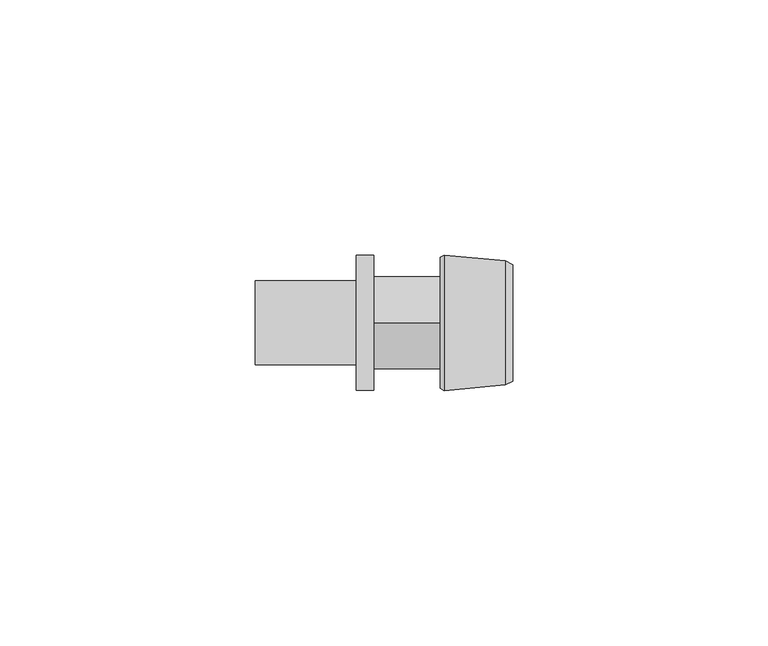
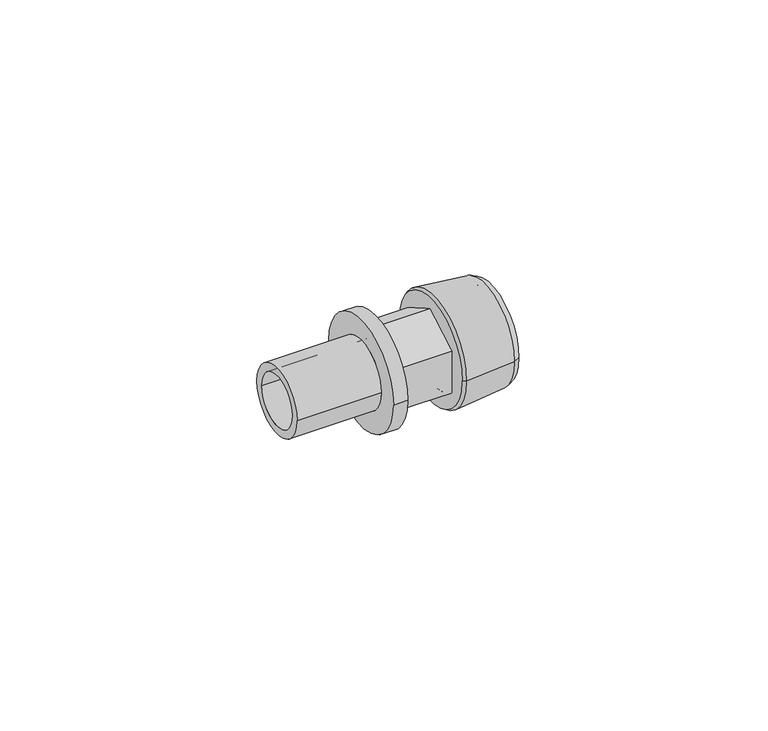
"""IFC4 building model written with IfcOpenShell, lengths in millimetres: pipe fitting geometry, RAUTITAN_Adapter_external_thread LX+G_LX : RTI A external LX+G_LX DE."""

from ifc_helpers import new_model, si_unit, frame, origin, place, context, project, spatial, polyline, circle_curve, outline, extrude, source, transform, mapped, element, save
from ifc_brep_helpers import plane_surface, cylinder_surface, revolved_surface, advanced_brep


def pipe_fitting_34324f26(model_context):
    return source(origin(), model_context, "Body", "SolidModel", [
        advanced_brep(
        [(-3.35, 8.225, 0.0), (-3.35, -8.225, 0.0), (-23.2, -8.225, 0.0), (-23.2, 8.225, 0.0), (0.0, 13.25, 0.0), (0.0, -13.25, 0.0), (-3.35, -13.25, 0.0), (-3.35, 13.25, 0.0), (-23.2, 6.25, 0.0), (-23.2, -6.25, 0.0), (0.0, -6.25, 0.0), (0.0, 6.25, 0.0)],
        [
            (0, 1, circle_curve(frame((-3.35, 0.0, 0.0), z_axis=(-1.0, 0.0, 0.0), x_axis=(0.0, -1.0, 0.0)), 8.225)),
            (1, 2),
            (2, 3, circle_curve(frame((-23.2, 0.0, 0.0), z_axis=(1.0, 0.0, 0.0), x_axis=(0.0, -1.0, 0.0)), 8.225)),
            (3, 0),
            (4, 5, circle_curve(frame((0.0, 0.0, 0.0), z_axis=(-1.0, 0.0, 0.0), x_axis=(0.0, -1.0, 0.0)), 13.25)),
            (5, 6),
            (6, 7, circle_curve(frame((-3.35, 0.0, 0.0), z_axis=(1.0, 0.0, 0.0), x_axis=(0.0, -1.0, 0.0)), 13.25)),
            (7, 4),
            (8, 9, circle_curve(frame((-23.2, 0.0, 0.0), z_axis=(-1.0, 0.0, 0.0), x_axis=(0.0, -1.0, 0.0)), 6.25)),
            (9, 10),
            (10, 11, circle_curve(frame((0.0, 0.0, 0.0), z_axis=(1.0, 0.0, 0.0), x_axis=(0.0, -1.0, 0.0)), 6.25)),
            (11, 8),
            (2, 3, circle_curve(frame((-23.2, 0.0, 0.0), z_axis=(-1.0, 0.0, 0.0), x_axis=(0.0, 1.0, 0.0)), 8.225)),
            (8, 9, circle_curve(frame((-23.2, 0.0, 0.0), z_axis=(1.0, 0.0, 0.0), x_axis=(0.0, 1.0, 0.0)), 6.25)),
            (1, 0, circle_curve(frame((-3.35, 0.0, 0.0), z_axis=(-1.0, 0.0, 0.0), x_axis=(0.0, 1.0, 0.0)), 8.225)),
            (6, 7, circle_curve(frame((-3.35, 0.0, 0.0), z_axis=(-1.0, 0.0, 0.0), x_axis=(0.0, 1.0, 0.0)), 13.25)),
            (5, 4, circle_curve(frame((0.0, 0.0, 0.0), z_axis=(-1.0, 0.0, 0.0), x_axis=(0.0, 1.0, 0.0)), 13.25)),
            (10, 11, circle_curve(frame((0.0, 0.0, 0.0), z_axis=(-1.0, 0.0, 0.0), x_axis=(0.0, 1.0, 0.0)), 6.25)),
        ],
        [
            cylinder_surface(frame((0.0, 0.0, 0.0), z_axis=(1.0, 0.0, 0.0), x_axis=(0.0, -1.0, 0.0)), 8.225),
            cylinder_surface(frame((0.0, 0.0, 0.0), z_axis=(1.0, 0.0, 0.0), x_axis=(0.0, -1.0, 0.0)), 13.25),
            revolved_surface(polyline([(0.0, -6.25, 0.0), (-23.2, -6.25, 0.0)]), (0.0, 0.0, 0.0), (1.0, 0.0, 0.0)),
            plane_surface(frame((-23.2, 0.0, 0.0), z_axis=(-1.0, 0.0, 0.0), x_axis=(0.0, 1.0, 0.0))),
            cylinder_surface(frame((0.0, 0.0, 0.0), z_axis=(1.0, 0.0, 0.0), x_axis=(0.0, 1.0, 0.0)), 8.225),
            plane_surface(frame((-3.35, 0.0, 0.0), z_axis=(-1.0, 0.0, 0.0), x_axis=(0.0, 1.0, 0.0))),
            cylinder_surface(frame((0.0, 0.0, 0.0), z_axis=(1.0, 0.0, 0.0), x_axis=(0.0, 1.0, 0.0)), 13.25),
            plane_surface(frame((0.0, 0.0, 0.0), z_axis=(1.0, 0.0, 0.0), x_axis=(0.0, 1.0, 0.0))),
            revolved_surface(polyline([(0.0, 6.25, 0.0), (-23.2, 6.25, 0.0)]), (0.0, 0.0, 0.0), (1.0, 0.0, 0.0)),
        ],
        [
            (0, [[1, 2, 3, 4]]),
            (1, [[5, 6, 7, 8]]),
            (2, [[9, 10, 11, 12]]),
            (3, [[13, -3], [14, -9]]),
            (4, [[15, -4, -13, -2]]),
            (5, [[16, -7], [-15, -1]]),
            (6, [[17, -8, -16, -6]]),
            (7, [[-17, -5], [18, -11]]),
            (8, [[-14, -12, -18, -10]]),
        ],
    ),
        advanced_brep(
        [(14.2132803, 9.5, 0.0), (14.2132803, -9.5, 0.0), (27.31, -9.5, 0.0), (27.31, 9.5, 0.0), (13.11, 8.3967197, 0.0), (13.11, -8.3967197, 0.0), (13.8506902, 13.27, 0.0), (13.8506902, -13.27, 0.0), (13.11, -12.845, 0.0), (13.11, 12.845, 0.0), (25.8100007, 12.16, 0.0), (25.8100007, -12.16, 0.0), (27.31, 11.425, 0.0), (27.31, -11.425, 0.0)],
        [
            (0, 1, circle_curve(frame((14.2132803, 0.0, 0.0), z_axis=(-1.0, 0.0, 0.0), x_axis=(0.0, -1.0, 0.0)), 9.5)),
            (1, 2),
            (2, 3, circle_curve(frame((27.31, 0.0, 0.0), z_axis=(1.0, 0.0, 0.0), x_axis=(0.0, -1.0, 0.0)), 9.5)),
            (3, 0),
            (4, 5, circle_curve(frame((13.11, 0.0, 0.0), z_axis=(-1.0, 0.0, 0.0), x_axis=(0.0, -1.0, 0.0)), 8.3967197)),
            (5, 1),
            (0, 4),
            (6, 7, circle_curve(frame((13.8506902, 0.0, 0.0), z_axis=(-1.0, 0.0, 0.0), x_axis=(0.0, -1.0, 0.0)), 13.27)),
            (7, 8),
            (8, 9, circle_curve(frame((13.11, 0.0, 0.0), z_axis=(1.0, 0.0, 0.0), x_axis=(0.0, -1.0, 0.0)), 12.845)),
            (9, 6),
            (10, 11, circle_curve(frame((25.8100007, 0.0, 0.0), z_axis=(-1.0, 0.0, 0.0), x_axis=(0.0, -1.0, 0.0)), 12.16)),
            (11, 7),
            (6, 10),
            (12, 13, circle_curve(frame((27.31, 0.0, 0.0), z_axis=(-1.0, 0.0, 0.0), x_axis=(0.0, -1.0, 0.0)), 11.425)),
            (13, 11),
            (10, 12),
            (1, 0, circle_curve(frame((14.2132803, 0.0, 0.0), z_axis=(-1.0, 0.0, 0.0), x_axis=(0.0, 1.0, 0.0)), 9.5)),
            (3, 2, circle_curve(frame((27.31, 0.0, 0.0), z_axis=(1.0, 0.0, 0.0), x_axis=(0.0, 1.0, 0.0)), 9.5)),
            (5, 4, circle_curve(frame((13.11, 0.0, 0.0), z_axis=(-1.0, 0.0, 0.0), x_axis=(0.0, 1.0, 0.0)), 8.3967197)),
            (8, 9, circle_curve(frame((13.11, 0.0, 0.0), z_axis=(-1.0, 0.0, 0.0), x_axis=(0.0, 1.0, 0.0)), 12.845)),
            (7, 6, circle_curve(frame((13.8506902, 0.0, 0.0), z_axis=(-1.0, 0.0, 0.0), x_axis=(0.0, 1.0, 0.0)), 13.27)),
            (11, 10, circle_curve(frame((25.8100007, 0.0, 0.0), z_axis=(-1.0, 0.0, 0.0), x_axis=(0.0, 1.0, 0.0)), 12.16)),
            (13, 12, circle_curve(frame((27.31, 0.0, 0.0), z_axis=(-1.0, 0.0, 0.0), x_axis=(0.0, 1.0, 0.0)), 11.425)),
        ],
        [
            revolved_surface(polyline([(27.31, -9.5, 0.0), (14.2132803, -9.5, 0.0)]), (0.0, 0.0, 0.0), (1.0, 0.0, 0.0)),
            revolved_surface(polyline([(14.2132803, -9.5, 0.0), (13.11, -8.3967197, 0.0)]), (0.0, 0.0, 0.0), (1.0, 0.0, 0.0)),
            revolved_surface(polyline([(13.11, -12.845, 0.0), (13.8506902, -13.27, 0.0)]), (0.0, 0.0, 0.0), (1.0, 0.0, 0.0)),
            revolved_surface(polyline([(13.8506902, -13.27, 0.0), (25.8100007, -12.16, 0.0)]), (0.0, 0.0, 0.0), (1.0, 0.0, 0.0)),
            revolved_surface(polyline([(25.8100007, -12.16, 0.0), (27.31, -11.425, 0.0)]), (0.0, 0.0, 0.0), (1.0, 0.0, 0.0)),
            revolved_surface(polyline([(27.31, 9.5, 0.0), (14.2132803, 9.5, 0.0)]), (0.0, 0.0, 0.0), (1.0, 0.0, 0.0)),
            revolved_surface(polyline([(14.2132803, 9.5, 0.0), (13.11, 8.3967197, 0.0)]), (0.0, 0.0, 0.0), (1.0, 0.0, 0.0)),
            plane_surface(frame((13.11, 0.0, 0.0), z_axis=(-1.0, 0.0, 0.0), x_axis=(0.0, 1.0, 0.0))),
            revolved_surface(polyline([(13.11, 12.845, 0.0), (13.8506902, 13.27, 0.0)]), (0.0, 0.0, 0.0), (1.0, 0.0, 0.0)),
            revolved_surface(polyline([(13.8506902, 13.27, 0.0), (25.8100007, 12.16, 0.0)]), (0.0, 0.0, 0.0), (1.0, 0.0, 0.0)),
            revolved_surface(polyline([(25.8100007, 12.16, 0.0), (27.31, 11.425, 0.0)]), (0.0, 0.0, 0.0), (1.0, 0.0, 0.0)),
            plane_surface(frame((27.31, 0.0, 0.0), z_axis=(1.0, 0.0, 0.0), x_axis=(0.0, 1.0, 0.0))),
        ],
        [
            (0, [[1, 2, 3, 4]]),
            (1, [[5, 6, -1, 7]]),
            (2, [[8, 9, 10, 11]]),
            (3, [[12, 13, -8, 14]]),
            (4, [[15, 16, -12, 17]]),
            (5, [[18, -4, 19, -2]]),
            (6, [[20, -7, -18, -6]]),
            (7, [[21, -10], [-20, -5]]),
            (8, [[22, -11, -21, -9]]),
            (9, [[23, -14, -22, -13]]),
            (10, [[24, -17, -23, -16]]),
            (11, [[-24, -15], [-19, -3]]),
        ],
    ),
        extrude(outline(polyline([(-9.0, 5.1961524), (0.0, 10.3923048), (9.0, 5.1961524), (9.0, -5.1961524), (0.0, -10.3923048), (-9.0, -5.1961524), (-9.0, 5.1961524)])), frame((0.0, 0.0, 0.0), z_axis=(1.0, 0.0, 0.0), x_axis=(0.0, 1.0, 0.0)), (0.0, 0.0, 1.0), 13.11),
    ])


if __name__ == "__main__":
    model = new_model("IFC4")
    model_context = context("Model", 3, world=origin())
    ifc_project = project(units=[si_unit("LENGTHUNIT", "METRE", prefix="MILLI")], contexts=[model_context])
    site = spatial("IfcSite", under=ifc_project)
    building = spatial("IfcBuilding", under=site)
    placement = place(None, origin())
    pipe_fitting_shape = pipe_fitting_34324f26(model_context)
    element("IfcPipeFitting", 1, ObjectType="RAUTITAN_Adapter_external_thread LX+G_LX : RTI A external LX+G_LX DE", at=placement, inside=building, context=model_context, shape_type="MappedRepresentation", body=[
        mapped(pipe_fitting_shape, transform((0.0, 0.0, 0.0), x_axis=(1.0, 0.0, 0.0), y_axis=(0.0, 1.0, 0.0), z_axis=(0.0, 0.0, 1.0))),
    ])
    save(model, "model.ifc")
